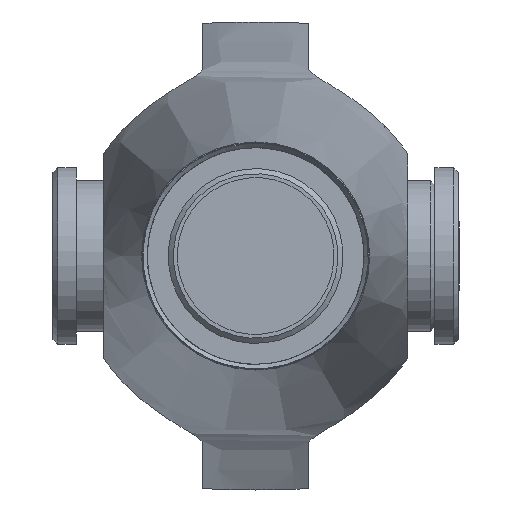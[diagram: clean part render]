
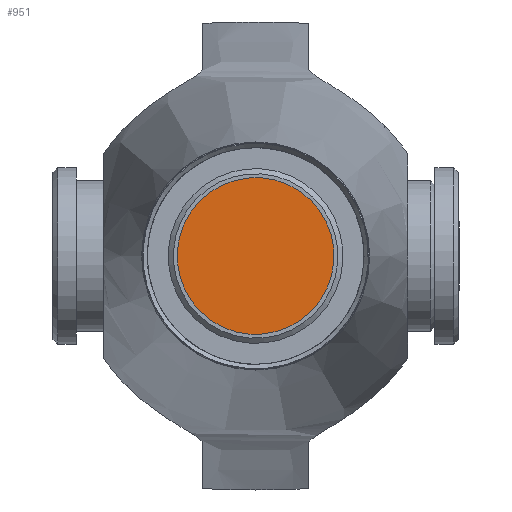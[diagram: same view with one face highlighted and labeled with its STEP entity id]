
A CAD part, left-side view. The second image highlights one B-rep face of the part: STEP entity #951.
In plain terms, the highlighted planar face has unit normal (-1, 0, 0).
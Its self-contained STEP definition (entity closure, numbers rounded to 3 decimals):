
#70=PLANE('',#1043);
#100=FACE_OUTER_BOUND('',#158,.T.);
#158=EDGE_LOOP('',(#627,#628));
#313=CIRCLE('',#1041,33.25);
#314=CIRCLE('',#1042,33.25);
#381=VERTEX_POINT('',#1474);
#382=VERTEX_POINT('',#1476);
#479=EDGE_CURVE('',#382,#381,#313,.T.);
#480=EDGE_CURVE('',#381,#382,#314,.T.);
#627=ORIENTED_EDGE('',*,*,#479,.T.);
#628=ORIENTED_EDGE('',*,*,#480,.T.);
#951=ADVANCED_FACE('',(#100),#70,.T.);
#1041=AXIS2_PLACEMENT_3D('',#1477,#1186,#1187);
#1042=AXIS2_PLACEMENT_3D('',#1478,#1188,#1189);
#1043=AXIS2_PLACEMENT_3D('',#1479,#1190,#1191);
#1186=DIRECTION('center_axis',(-1.,0.,0.));
#1187=DIRECTION('ref_axis',(0.,-0.273,-0.962));
#1188=DIRECTION('center_axis',(-1.,0.,0.));
#1189=DIRECTION('ref_axis',(0.,-0.273,-0.962));
#1190=DIRECTION('center_axis',(-1.,0.,0.));
#1191=DIRECTION('ref_axis',(0.,-0.273,-0.962));
#1474=CARTESIAN_POINT('',(-663.5,-31.985,9.086));
#1476=CARTESIAN_POINT('',(-663.5,31.985,-9.086));
#1477=CARTESIAN_POINT('Origin',(-663.5,0.,
0.));
#1478=CARTESIAN_POINT('Origin',(-663.5,0.,
0.));
#1479=CARTESIAN_POINT('Origin',(-663.5,0.,
0.));
